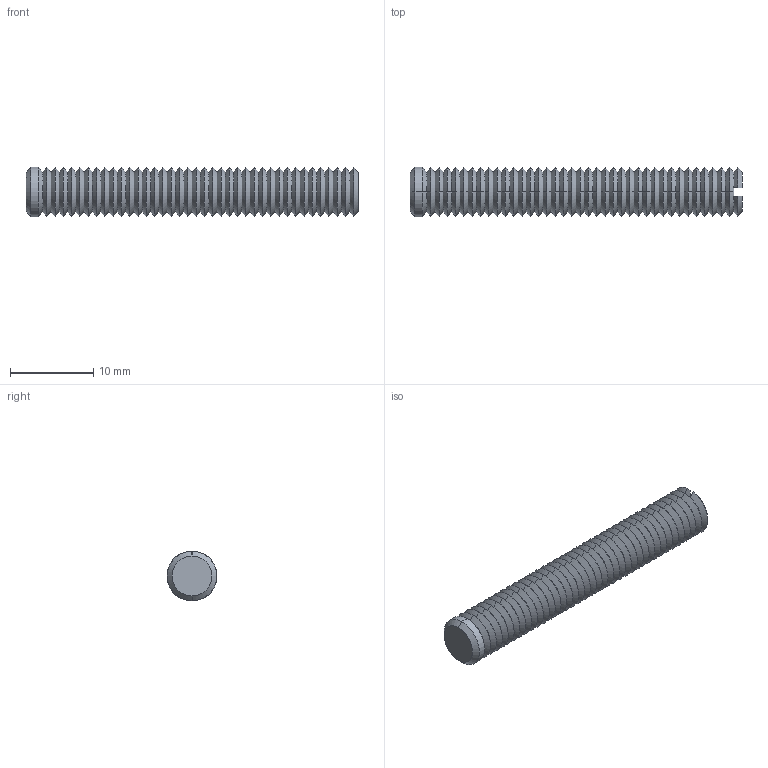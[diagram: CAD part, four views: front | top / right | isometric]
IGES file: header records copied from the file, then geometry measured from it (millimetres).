
Start section: SolidWorks IGES file using analytic representation for surfaces
Global section: file name: C:\Documents and Settings\IANO\Desktop\Temp File\Process pending\EXISTING\34300_v2\34300_v2_20170622_IGES\34300.W0064.igs; native system: SolidWorks 2009; preprocessor: SolidWorks 2009; author: IANO; date: 170622.093620; units: millimetre
Bounding box: 40 x 6 x 6 mm (x, y, z)
Surface area: 1114.8 mm2 (no closed solid volume)
Topology: 0 solids, 0 shells, 164 faces, 720 edges, 720 vertices
Faces by surface type: revolution 158, bspline 6
